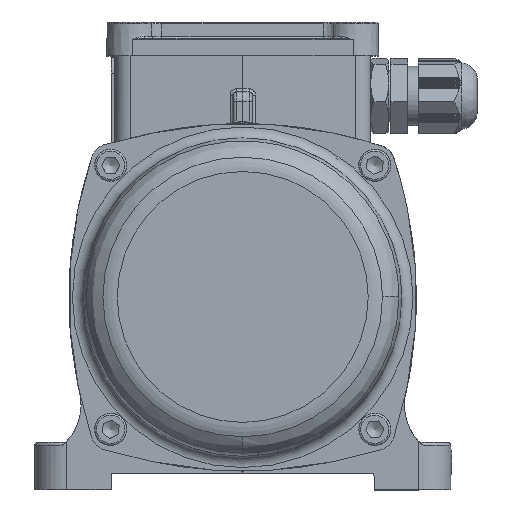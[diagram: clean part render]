
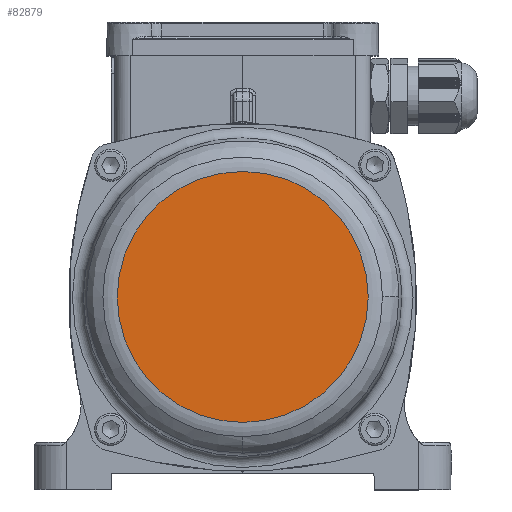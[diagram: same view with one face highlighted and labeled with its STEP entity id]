
A CAD part, top view. The second image highlights one B-rep face of the part: STEP entity #82879.
In plain terms, the highlighted planar face has unit normal (0, 0, 1).
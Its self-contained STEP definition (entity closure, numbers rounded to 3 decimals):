
#5963=PLANE('',#88640);
#9663=FACE_OUTER_BOUND('',#14374,.T.);
#14374=EDGE_LOOP('',(#60082));
#32645=CIRCLE('',#88637,39.2);
#35293=VERTEX_POINT('',#170578);
#44449=EDGE_CURVE('',#35293,#35293,#32645,.T.);
#60082=ORIENTED_EDGE('',*,*,#44449,.F.);
#82879=ADVANCED_FACE('',(#9663),#5963,.T.);
#88637=AXIS2_PLACEMENT_3D('',#170580,#97666,#97667);
#88640=AXIS2_PLACEMENT_3D('',#170583,#97672,#97673);
#97666=DIRECTION('center_axis',(0.,0.,
-1.));
#97667=DIRECTION('ref_axis',(-1.,0.,0.));
#97672=DIRECTION('center_axis',(0.,0.,
1.));
#97673=DIRECTION('ref_axis',(1.,0.,0.));
#170578=CARTESIAN_POINT('',(34.667,-2.678,121.5));
#170580=CARTESIAN_POINT('Origin',(-4.533,-2.678,121.5));
#170583=CARTESIAN_POINT('Origin',(-4.533,36.522,121.5));
